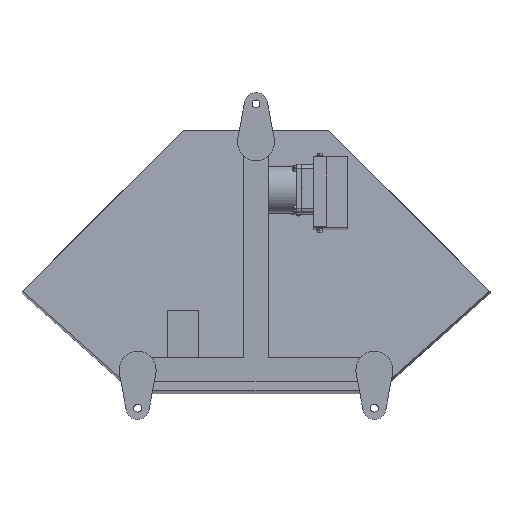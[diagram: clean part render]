
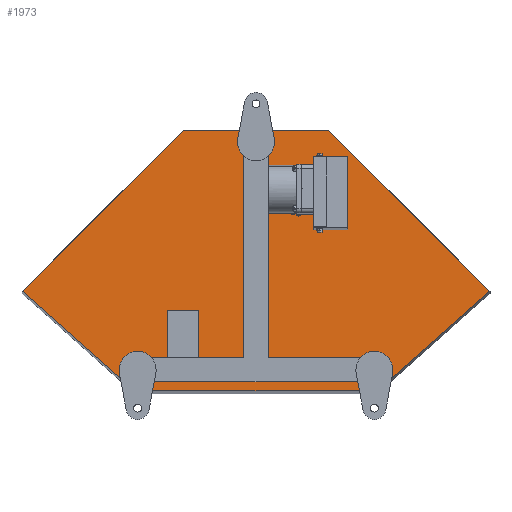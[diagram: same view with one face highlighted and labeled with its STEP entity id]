
A CAD part, front view. The second image highlights one B-rep face of the part: STEP entity #1973.
In plain terms, the highlighted planar face has unit normal (0, -0.999, 0.034).
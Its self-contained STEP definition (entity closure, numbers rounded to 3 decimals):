
#1973=ADVANCED_FACE('',(#6219),#6218,.T.);
#6218=PLANE('',#15562);
#6219=FACE_OUTER_BOUND('',#15563,.T.);
#15559=CARTESIAN_POINT('',(-395.373,-89.026,-110.006));
#15560=DIRECTION('',(0.,-0.999,0.034));
#15561=DIRECTION('',(0.,-0.034,-0.999));
#15562=AXIS2_PLACEMENT_3D('',#15559,#15560,#15561);
#15563=EDGE_LOOP('',(#22161,#22162,#22163,#22164,#22165,#22166));
#22161=ORIENTED_EDGE('',*,*,#26310,.T.);
#22162=ORIENTED_EDGE('',*,*,#26306,.T.);
#22163=ORIENTED_EDGE('',*,*,#26303,.T.);
#22164=ORIENTED_EDGE('',*,*,#26299,.T.);
#22165=ORIENTED_EDGE('',*,*,#26301,.T.);
#22166=ORIENTED_EDGE('',*,*,#26309,.T.);
#26299=EDGE_CURVE('',#33846,#33853,#33860,.T.);
#26301=EDGE_CURVE('',#33853,#33866,#33873,.T.);
#26303=EDGE_CURVE('',#33879,#33846,#33886,.T.);
#26306=EDGE_CURVE('',#33904,#33879,#33905,.T.);
#26309=EDGE_CURVE('',#33866,#33917,#33924,.T.);
#26310=EDGE_CURVE('',#33917,#33904,#33930,.T.);
#33846=VERTEX_POINT('',#50667);
#33853=VERTEX_POINT('',#50671);
#33860=LINE('',#50675,#50676);
#33866=VERTEX_POINT('',#50678);
#33873=LINE('',#50682,#50683);
#33879=VERTEX_POINT('',#50685);
#33886=LINE('',#50689,#50690);
#33904=VERTEX_POINT('',#50698);
#33905=LINE('',#50699,#50700);
#33917=VERTEX_POINT('',#50705);
#33924=LINE('',#50709,#50710);
#33930=LINE('',#50712,#50713);
#50667=CARTESIAN_POINT('',(-200.,-103.823,-549.757));
#50671=CARTESIAN_POINT('',(200.,-103.823,-549.757));
#50675=CARTESIAN_POINT('',(-200.,-103.823,-549.757));
#50676=VECTOR('',#50677,400.);
#50677=DIRECTION('',(1.,0.,0.));
#50678=CARTESIAN_POINT('',(385.373,-98.287,-385.223));
#50682=CARTESIAN_POINT('',(200.,-103.823,-549.757));
#50683=VECTOR('',#50684,247.922);
#50684=DIRECTION('',(0.748,0.022,0.664));
#50685=CARTESIAN_POINT('',(-385.373,-98.287,-385.223));
#50689=CARTESIAN_POINT('',(-385.373,-98.287,-385.223));
#50690=VECTOR('',#50691,247.922);
#50691=DIRECTION('',(0.748,-0.022,-0.664));
#50698=CARTESIAN_POINT('',(-120.,-89.362,-120.));
#50699=CARTESIAN_POINT('',(-120.,-89.362,-120.));
#50700=VECTOR('',#50701,375.294);
#50701=DIRECTION('',(-0.707,-0.024,-0.707));
#50705=CARTESIAN_POINT('',(120.,-89.362,-120.));
#50709=CARTESIAN_POINT('',(385.373,-98.287,-385.223));
#50710=VECTOR('',#50711,375.294);
#50711=DIRECTION('',(-0.707,0.024,0.707));
#50712=CARTESIAN_POINT('',(120.,-89.362,-120.));
#50713=VECTOR('',#50714,240.);
#50714=DIRECTION('',(-1.,0.,0.));
